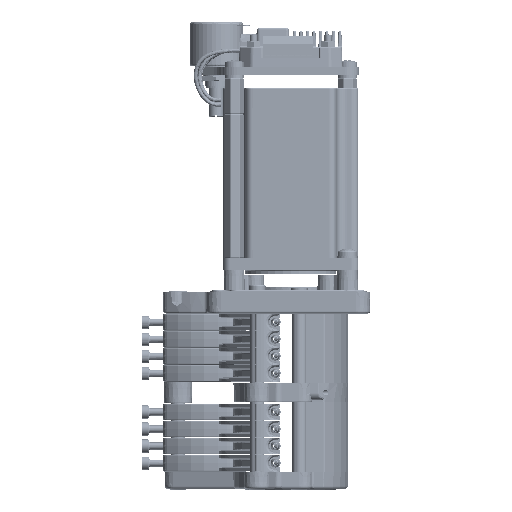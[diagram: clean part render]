
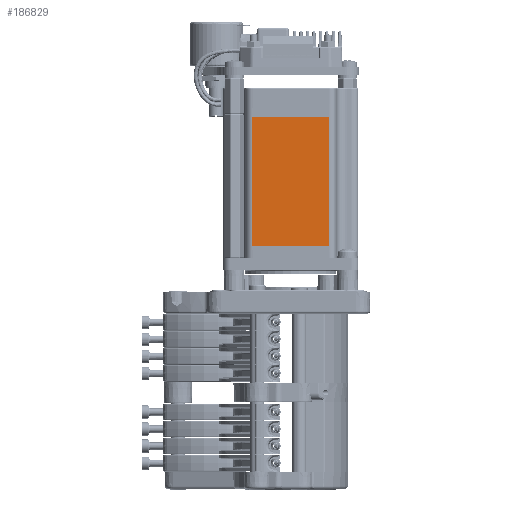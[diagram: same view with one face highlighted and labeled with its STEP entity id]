
A CAD part, left-side view. The second image highlights one B-rep face of the part: STEP entity #186829.
In plain terms, the highlighted planar face has unit normal (-1, 0, 0).
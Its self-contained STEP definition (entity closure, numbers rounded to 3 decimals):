
#745 = ORIENTED_EDGE ( 'NONE', *, *, #54971, .T. ) ;
#1541 = CARTESIAN_POINT ( 'NONE',  ( -29.95, 14.9, 28. ) ) ;
#2362 = B_SPLINE_CURVE_WITH_KNOTS ( 'NONE', 3,
 ( #1541, #92109, #124981, #30391 ),
 .UNSPECIFIED., .F., .F.,
 ( 4, 4 ),
 ( 0., 1. ),
 .UNSPECIFIED. ) ;
#2782 = LINE ( 'NONE', #42788, #91121 ) ;
#7466 = AXIS2_PLACEMENT_3D ( 'NONE', #168403, #40892, #73809 ) ;
#7631 = EDGE_CURVE ( 'NONE', #27684, #21674, #20272, .T. ) ;
#13490 = B_SPLINE_CURVE_WITH_KNOTS ( 'NONE', 3,
 ( #198579, #137869, #57677, #183145 ),
 .UNSPECIFIED., .F., .F.,
 ( 4, 4 ),
 ( 0., 1. ),
 .UNSPECIFIED. ) ;
#14220 = CARTESIAN_POINT ( 'NONE',  ( -29.95, -16.916, 82. ) ) ;
#19515 = CARTESIAN_POINT ( 'NONE',  ( -29.95, 14.916, 28. ) ) ;
#20272 = B_SPLINE_CURVE_WITH_KNOTS ( 'NONE', 3,
 ( #181658, #86008, #133323, #41747 ),
 .UNSPECIFIED., .F., .F.,
 ( 4, 4 ),
 ( 0., 1. ),
 .UNSPECIFIED. ) ;
#20364 = EDGE_CURVE ( 'NONE', #178192, #170420, #129031, .T. ) ;
#21046 = CARTESIAN_POINT ( 'NONE',  ( -29.95, 14.924, 82. ) ) ;
#21674 = VERTEX_POINT ( 'NONE', #92273 ) ;
#25533 = ORIENTED_EDGE ( 'NONE', *, *, #48407, .T. ) ;
#27487 = FACE_OUTER_BOUND ( 'NONE', #121911, .T. ) ;
#27684 = VERTEX_POINT ( 'NONE', #167634 ) ;
#28299 = ORIENTED_EDGE ( 'NONE', *, *, #78222, .T. ) ;
#30391 = CARTESIAN_POINT ( 'NONE',  ( -29.95, -16.9, 28. ) ) ;
#31227 = ORIENTED_EDGE ( 'NONE', *, *, #20364, .T. ) ;
#33936 = VERTEX_POINT ( 'NONE', #203560 ) ;
#37868 = VERTEX_POINT ( 'NONE', #129773 ) ;
#39739 = DIRECTION ( 'NONE',  ( 0., 0., 1. ) ) ;
#40892 = DIRECTION ( 'NONE',  ( 1., 0., 0. ) ) ;
#41747 = CARTESIAN_POINT ( 'NONE',  ( -29.95, -16.9, 82. ) ) ;
#42655 = EDGE_CURVE ( 'NONE', #21674, #33936, #136124, .T. ) ;
#42788 = CARTESIAN_POINT ( 'NONE',  ( -29.95, -16.924, 5.605 ) ) ;
#48407 = EDGE_CURVE ( 'NONE', #170420, #172401, #58497, .T. ) ;
#54971 = EDGE_CURVE ( 'NONE', #172401, #37868, #2362, .T. ) ;
#57677 = CARTESIAN_POINT ( 'NONE',  ( -29.95, -16.916, 28. ) ) ;
#58497 = B_SPLINE_CURVE_WITH_KNOTS ( 'NONE', 3,
 ( #64849, #19515, #113120, #80292 ),
 .UNSPECIFIED., .F., .F.,
 ( 4, 4 ),
 ( 0., 1. ),
 .UNSPECIFIED. ) ;
#64849 = CARTESIAN_POINT ( 'NONE',  ( -29.95, 14.924, 28. ) ) ;
#68341 = CARTESIAN_POINT ( 'NONE',  ( -29.95, 14.924, 5.605 ) ) ;
#73809 = DIRECTION ( 'NONE',  ( 0., 0., 1. ) ) ;
#74926 = CARTESIAN_POINT ( 'NONE',  ( -29.95, -16.9, 82. ) ) ;
#78222 = EDGE_CURVE ( 'NONE', #37868, #126851, #13490, .T. ) ;
#78495 = ORIENTED_EDGE ( 'NONE', *, *, #7631, .F. ) ;
#80292 = CARTESIAN_POINT ( 'NONE',  ( -29.95, 14.9, 28. ) ) ;
#86008 = CARTESIAN_POINT ( 'NONE',  ( -29.95, 4.3, 82. ) ) ;
#89014 = B_SPLINE_CURVE_WITH_KNOTS ( 'NONE', 3,
 ( #135855, #121374, #154352, #137882 ),
 .UNSPECIFIED., .F., .F.,
 ( 4, 4 ),
 ( 0., 1. ),
 .UNSPECIFIED. ) ;
#91121 = VECTOR ( 'NONE', #39739, 1000. ) ;
#92109 = CARTESIAN_POINT ( 'NONE',  ( -29.95, 4.3, 28. ) ) ;
#92273 = CARTESIAN_POINT ( 'NONE',  ( -29.95, -16.9, 82. ) ) ;
#96330 = CARTESIAN_POINT ( 'NONE',  ( -29.95, 14.9, 28. ) ) ;
#109004 = ORIENTED_EDGE ( 'NONE', *, *, #113135, .F. ) ;
#113120 = CARTESIAN_POINT ( 'NONE',  ( -29.95, 14.908, 28. ) ) ;
#113135 = EDGE_CURVE ( 'NONE', #178192, #27684, #89014, .T. ) ;
#121048 = PLANE ( 'NONE',  #7466 ) ;
#121374 = CARTESIAN_POINT ( 'NONE',  ( -29.95, 14.916, 82. ) ) ;
#121911 = EDGE_LOOP ( 'NONE', ( #28299, #136377, #200215, #78495, #109004, #31227, #25533, #745 ) ) ;
#124981 = CARTESIAN_POINT ( 'NONE',  ( -29.95, -6.3, 28. ) ) ;
#126851 = VERTEX_POINT ( 'NONE', #166218 ) ;
#129031 = LINE ( 'NONE', #68341, #172269 ) ;
#129773 = CARTESIAN_POINT ( 'NONE',  ( -29.95, -16.9, 28. ) ) ;
#133323 = CARTESIAN_POINT ( 'NONE',  ( -29.95, -6.3, 82. ) ) ;
#135855 = CARTESIAN_POINT ( 'NONE',  ( -29.95, 14.924, 82. ) ) ;
#136124 = B_SPLINE_CURVE_WITH_KNOTS ( 'NONE', 3,
 ( #74926, #168534, #14220, #172590 ),
 .UNSPECIFIED., .F., .F.,
 ( 4, 4 ),
 ( 0., 1. ),
 .UNSPECIFIED. ) ;
#136377 = ORIENTED_EDGE ( 'NONE', *, *, #153847, .T. ) ;
#137869 = CARTESIAN_POINT ( 'NONE',  ( -29.95, -16.908, 28. ) ) ;
#137882 = CARTESIAN_POINT ( 'NONE',  ( -29.95, 14.9, 82. ) ) ;
#153847 = EDGE_CURVE ( 'NONE', #126851, #33936, #2782, .T. ) ;
#154352 = CARTESIAN_POINT ( 'NONE',  ( -29.95, 14.908, 82. ) ) ;
#166218 = CARTESIAN_POINT ( 'NONE',  ( -29.95, -16.924, 28. ) ) ;
#167634 = CARTESIAN_POINT ( 'NONE',  ( -29.95, 14.9, 82. ) ) ;
#168403 = CARTESIAN_POINT ( 'NONE',  ( -29.95, -20.7, 82. ) ) ;
#168534 = CARTESIAN_POINT ( 'NONE',  ( -29.95, -16.908, 82. ) ) ;
#170420 = VERTEX_POINT ( 'NONE', #173978 ) ;
#172269 = VECTOR ( 'NONE', #174344, 1000. ) ;
#172401 = VERTEX_POINT ( 'NONE', #96330 ) ;
#172590 = CARTESIAN_POINT ( 'NONE',  ( -29.95, -16.924, 82. ) ) ;
#173978 = CARTESIAN_POINT ( 'NONE',  ( -29.95, 14.924, 28. ) ) ;
#174344 = DIRECTION ( 'NONE',  ( 0., 0., -1. ) ) ;
#178192 = VERTEX_POINT ( 'NONE', #21046 ) ;
#181658 = CARTESIAN_POINT ( 'NONE',  ( -29.95, 14.9, 82. ) ) ;
#183145 = CARTESIAN_POINT ( 'NONE',  ( -29.95, -16.924, 28. ) ) ;
#186829 = ADVANCED_FACE ( 'NONE', ( #27487 ), #121048, .F. ) ;
#198579 = CARTESIAN_POINT ( 'NONE',  ( -29.95, -16.9, 28. ) ) ;
#200215 = ORIENTED_EDGE ( 'NONE', *, *, #42655, .F. ) ;
#203560 = CARTESIAN_POINT ( 'NONE',  ( -29.95, -16.924, 82. ) ) ;
